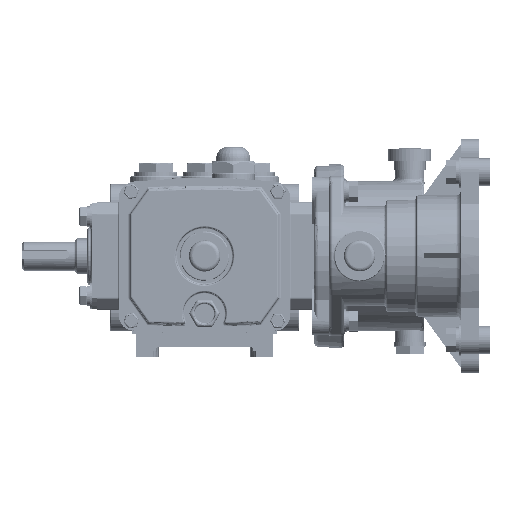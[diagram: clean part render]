
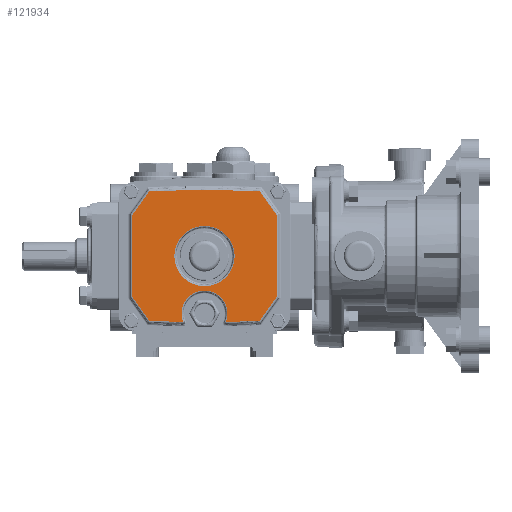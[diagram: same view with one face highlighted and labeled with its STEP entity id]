
A CAD part, top view. The second image highlights one B-rep face of the part: STEP entity #121934.
In plain terms, the highlighted planar face has unit normal (0, 0, 1).
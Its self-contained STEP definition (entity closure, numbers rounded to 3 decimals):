
#7045 = FACE_OUTER_BOUND ( 'NONE', #288873, .T. ) ;
#7116 = FACE_BOUND ( 'NONE', #288661, .T. ) ;
#7127 = AXIS2_PLACEMENT_3D ( 'NONE', #43952, #43954, #43955 ) ;
#42277 = CIRCLE ( 'NONE', #105636, 1452.102 ) ;
#42279 = CIRCLE ( 'NONE', #106358, 16. ) ;
#42281 = CIRCLE ( 'NONE', #106342, 1452.102 ) ;
#42283 = CIRCLE ( 'NONE', #106374, 1452.102 ) ;
#43951 = PLANE ( 'NONE',  #7127 ) ;
#43952 = CARTESIAN_POINT ( 'NONE',  ( 0., -1369.329, 244.75 ) ) ;
#43954 = DIRECTION ( 'NONE',  ( 0., 0., -1. ) ) ;
#43955 = DIRECTION ( 'NONE',  ( -1., 0., 0. ) ) ;
#47139 = AXIS2_PLACEMENT_3D ( 'NONE', #73704, #73706, #73707 ) ;
#48167 = EDGE_CURVE ( 'NONE', #112524, #112523, #166782, .T. ) ;
#69731 = CARTESIAN_POINT ( 'NONE',  ( 0., -3., 244.75 ) ) ;
#69737 = DIRECTION ( 'NONE',  ( 0., 0., -1. ) ) ;
#69740 = DIRECTION ( 'NONE',  ( -1., 0., 0. ) ) ;
#69757 = CARTESIAN_POINT ( 'NONE',  ( 0., -3., 244.75 ) ) ;
#69763 = DIRECTION ( 'NONE',  ( 0., 0., -1. ) ) ;
#69766 = DIRECTION ( 'NONE',  ( -1., 0., 0. ) ) ;
#73704 = CARTESIAN_POINT ( 'NONE',  ( 0., 37., 244.75 ) ) ;
#73706 = DIRECTION ( 'NONE',  ( 0., 0., -1. ) ) ;
#73707 = DIRECTION ( 'NONE',  ( -1., 0., 0. ) ) ;
#83735 = EDGE_CURVE ( 'NONE', #112396, #112395, #204869, .T. ) ;
#83741 = EDGE_CURVE ( 'NONE', #112398, #112396, #204875, .T. ) ;
#105636 = AXIS2_PLACEMENT_3D ( 'NONE', #142182, #142184, #142186 ) ;
#106342 = AXIS2_PLACEMENT_3D ( 'NONE', #142198, #142206, #142207 ) ;
#106358 = AXIS2_PLACEMENT_3D ( 'NONE', #142188, #142195, #142197 ) ;
#106374 = AXIS2_PLACEMENT_3D ( 'NONE', #142245, #142257, #142259 ) ;
#106418 = VECTOR ( 'NONE', #142220, 1000. ) ;
#106430 = VECTOR ( 'NONE', #142225, 1000. ) ;
#106439 = VECTOR ( 'NONE', #142250, 1000. ) ;
#106462 = VECTOR ( 'NONE', #142266, 1000. ) ;
#106470 = VECTOR ( 'NONE', #142284, 1000. ) ;
#106488 = VECTOR ( 'NONE', #142294, 1000. ) ;
#112395 = VERTEX_POINT ( 'NONE', #137814 ) ;
#112396 = VERTEX_POINT ( 'NONE', #137818 ) ;
#112398 = VERTEX_POINT ( 'NONE', #137837 ) ;
#112523 = VERTEX_POINT ( 'NONE', #139002 ) ;
#112524 = VERTEX_POINT ( 'NONE', #139003 ) ;
#117478 = ORIENTED_EDGE ( 'NONE', *, *, #48167, .T. ) ;
#117489 = ORIENTED_EDGE ( 'NONE', *, *, #83735, .T. ) ;
#117500 = ORIENTED_EDGE ( 'NONE', *, *, #123001, .T. ) ;
#117503 = ORIENTED_EDGE ( 'NONE', *, *, #302051, .T. ) ;
#117512 = ORIENTED_EDGE ( 'NONE', *, *, #302053, .T. ) ;
#117514 = ORIENTED_EDGE ( 'NONE', *, *, #83741, .T. ) ;
#117523 = ORIENTED_EDGE ( 'NONE', *, *, #302057, .T. ) ;
#117526 = ORIENTED_EDGE ( 'NONE', *, *, #302055, .T. ) ;
#117534 = ORIENTED_EDGE ( 'NONE', *, *, #302058, .T. ) ;
#117539 = ORIENTED_EDGE ( 'NONE', *, *, #302060, .T. ) ;
#117545 = ORIENTED_EDGE ( 'NONE', *, *, #302062, .T. ) ;
#117553 = ORIENTED_EDGE ( 'NONE', *, *, #302063, .T. ) ;
#117559 = ORIENTED_EDGE ( 'NONE', *, *, #302065, .T. ) ;
#117564 = ORIENTED_EDGE ( 'NONE', *, *, #302067, .T. ) ;
#121934 = ADVANCED_FACE ( 'NONE', ( #7116, #7045 ), #43951, .F. ) ;
#123001 = EDGE_CURVE ( 'NONE', #112523, #112524, #272125, .T. ) ;
#137814 = CARTESIAN_POINT ( 'NONE',  ( 16., -3., 244.75 ) ) ;
#137818 = CARTESIAN_POINT ( 'NONE',  ( -16., -3., 244.75 ) ) ;
#137837 = CARTESIAN_POINT ( 'NONE',  ( -14.952, -8.696, 244.75 ) ) ;
#139002 = CARTESIAN_POINT ( 'NONE',  ( 21., 37., 244.75 ) ) ;
#139003 = CARTESIAN_POINT ( 'NONE',  ( -21., 37., 244.75 ) ) ;
#142182 = CARTESIAN_POINT ( 'NONE',  ( 0., 1443.329, 244.75 ) ) ;
#142184 = DIRECTION ( 'NONE',  ( 0., 0., 1. ) ) ;
#142186 = DIRECTION ( 'NONE',  ( -1., 0., 0. ) ) ;
#142188 = CARTESIAN_POINT ( 'NONE',  ( 0., -3., 244.75 ) ) ;
#142195 = DIRECTION ( 'NONE',  ( 0., 0., -1. ) ) ;
#142197 = DIRECTION ( 'NONE',  ( -1., 0., 0. ) ) ;
#142198 = CARTESIAN_POINT ( 'NONE',  ( 0., 1443.329, 244.75 ) ) ;
#142206 = DIRECTION ( 'NONE',  ( 0., 0., 1. ) ) ;
#142207 = DIRECTION ( 'NONE',  ( -1., 0., 0. ) ) ;
#142216 = LINE ( 'NONE', #142218, #106418 ) ;
#142218 = CARTESIAN_POINT ( 'NONE',  ( -619.7, -924.192, 244.75 ) ) ;
#142220 = DIRECTION ( 'NONE',  ( 0.583, 0.812, 0. ) ) ;
#142221 = LINE ( 'NONE', #142223, #106430 ) ;
#142223 = CARTESIAN_POINT ( 'NONE',  ( 50.25, -1369.329, 244.75 ) ) ;
#142225 = DIRECTION ( 'NONE',  ( 0., 1., 0. ) ) ;
#142245 = CARTESIAN_POINT ( 'NONE',  ( 0., -1369.329, 244.75 ) ) ;
#142246 = LINE ( 'NONE', #142248, #106439 ) ;
#142248 = CARTESIAN_POINT ( 'NONE',  ( 713.019, -857.161, 244.75 ) ) ;
#142250 = DIRECTION ( 'NONE',  ( -0.583, 0.812, 0. ) ) ;
#142257 = DIRECTION ( 'NONE',  ( 0., 0., 1. ) ) ;
#142259 = DIRECTION ( 'NONE',  ( -1., 0., 0. ) ) ;
#142262 = LINE ( 'NONE', #142264, #106462 ) ;
#142264 = CARTESIAN_POINT ( 'NONE',  ( -713.019, -857.161, 244.75 ) ) ;
#142266 = DIRECTION ( 'NONE',  ( -0.583, -0.812, 0. ) ) ;
#142280 = LINE ( 'NONE', #142282, #106470 ) ;
#142282 = CARTESIAN_POINT ( 'NONE',  ( -50.25, -1369.329, 244.75 ) ) ;
#142284 = DIRECTION ( 'NONE',  ( 0., -1., 0. ) ) ;
#142291 = LINE ( 'NONE', #142293, #106488 ) ;
#142293 = CARTESIAN_POINT ( 'NONE',  ( 619.7, -924.192, 244.75 ) ) ;
#142294 = DIRECTION ( 'NONE',  ( 0.583, -0.812, 0. ) ) ;
#158885 = VERTEX_POINT ( 'NONE', #163303 ) ;
#158888 = VERTEX_POINT ( 'NONE', #163312 ) ;
#158892 = VERTEX_POINT ( 'NONE', #163322 ) ;
#158897 = VERTEX_POINT ( 'NONE', #163341 ) ;
#158900 = VERTEX_POINT ( 'NONE', #163350 ) ;
#158904 = VERTEX_POINT ( 'NONE', #163361 ) ;
#158909 = VERTEX_POINT ( 'NONE', #163413 ) ;
#158911 = VERTEX_POINT ( 'NONE', #163416 ) ;
#158916 = VERTEX_POINT ( 'NONE', #163434 ) ;
#163303 = CARTESIAN_POINT ( 'NONE',  ( -50.25, 8.483, 244.75 ) ) ;
#163312 = CARTESIAN_POINT ( 'NONE',  ( -50.25, 65.517, 244.75 ) ) ;
#163322 = CARTESIAN_POINT ( 'NONE',  ( -38.216, 82.27, 244.75 ) ) ;
#163341 = CARTESIAN_POINT ( 'NONE',  ( 38.216, 82.27, 244.75 ) ) ;
#163350 = CARTESIAN_POINT ( 'NONE',  ( 50.25, 65.517, 244.75 ) ) ;
#163361 = CARTESIAN_POINT ( 'NONE',  ( 50.25, 8.483, 244.75 ) ) ;
#163413 = CARTESIAN_POINT ( 'NONE',  ( 38.216, -8.27, 244.75 ) ) ;
#163416 = CARTESIAN_POINT ( 'NONE',  ( 14.952, -8.696, 244.75 ) ) ;
#163434 = CARTESIAN_POINT ( 'NONE',  ( -38.216, -8.27, 244.75 ) ) ;
#165232 = AXIS2_PLACEMENT_3D ( 'NONE', #69731, #69737, #69740 ) ;
#165234 = AXIS2_PLACEMENT_3D ( 'NONE', #69757, #69763, #69766 ) ;
#166782 = CIRCLE ( 'NONE', #181853, 21. ) ;
#181853 = AXIS2_PLACEMENT_3D ( 'NONE', #235059, #235076, #235079 ) ;
#204869 = CIRCLE ( 'NONE', #165232, 16. ) ;
#204875 = CIRCLE ( 'NONE', #165234, 16. ) ;
#235059 = CARTESIAN_POINT ( 'NONE',  ( 0., 37., 244.75 ) ) ;
#235076 = DIRECTION ( 'NONE',  ( 0., 0., -1. ) ) ;
#235079 = DIRECTION ( 'NONE',  ( -1., 0., 0. ) ) ;
#272125 = CIRCLE ( 'NONE', #47139, 21. ) ;
#288661 = EDGE_LOOP ( 'NONE', ( #117478, #117500 ) ) ;
#288873 = EDGE_LOOP ( 'NONE', ( #117503, #117514, #117489, #117512, #117526, #117523, #117534, #117539, #117545, #117553, #117559, #117564 ) ) ;
#302051 = EDGE_CURVE ( 'NONE', #158916, #112398, #42277, .T. ) ;
#302053 = EDGE_CURVE ( 'NONE', #112395, #158911, #42279, .T. ) ;
#302055 = EDGE_CURVE ( 'NONE', #158911, #158909, #42281, .T. ) ;
#302057 = EDGE_CURVE ( 'NONE', #158909, #158904, #142216, .T. ) ;
#302058 = EDGE_CURVE ( 'NONE', #158904, #158900, #142221, .T. ) ;
#302060 = EDGE_CURVE ( 'NONE', #158900, #158897, #142246, .T. ) ;
#302062 = EDGE_CURVE ( 'NONE', #158897, #158892, #42283, .T. ) ;
#302063 = EDGE_CURVE ( 'NONE', #158892, #158888, #142262, .T. ) ;
#302065 = EDGE_CURVE ( 'NONE', #158888, #158885, #142280, .T. ) ;
#302067 = EDGE_CURVE ( 'NONE', #158885, #158916, #142291, .T. ) ;
